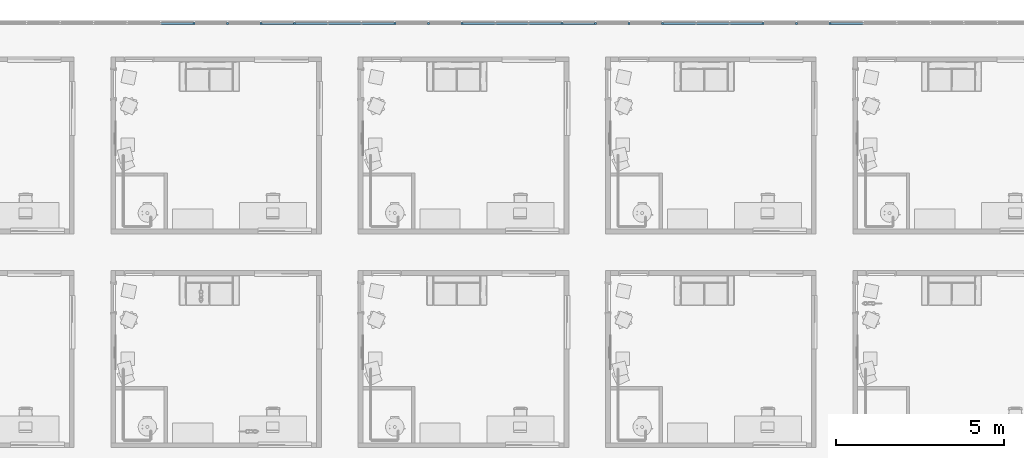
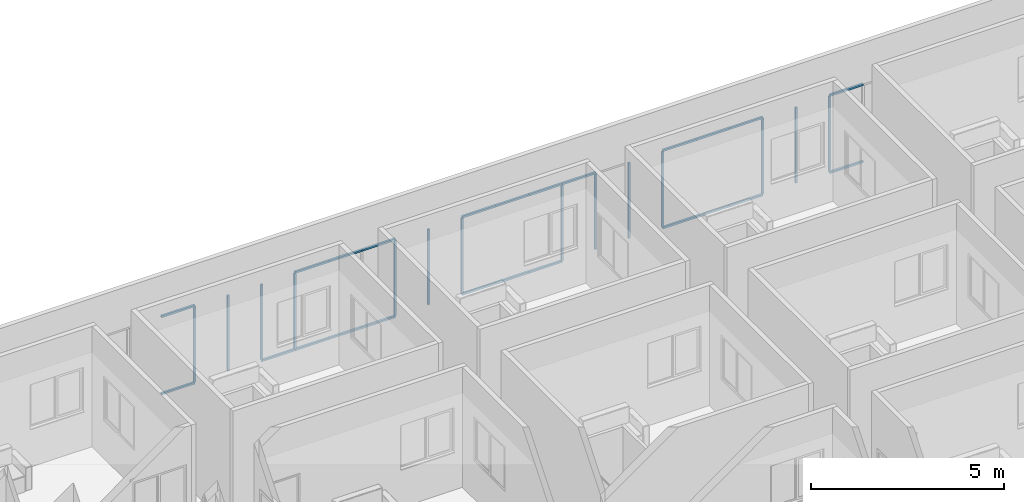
# One storey, part 3 of 71: 38 members, 1 element without a shape of its own.
"""IFC4 building model written with IfcOpenShell, lengths in centimetres."""

from ifc_helpers import new_model, entity, si_unit, converted_unit, derived_unit, direction, frame, origin, place, context, subcontext, project, spatial, indexed_curve, outline, extrude, source, transform, mapped, material, type_object, type_shapes, element, aggregate, save


model = new_model("IFC4")

# Units and contexts
model_context = context("Model", 3, precision=0.001, world=origin(), true_north=direction((6.123233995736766e-17, 1.0)))
body_context = subcontext(model_context, "Body", "Model", "MODEL_VIEW")
ifc_project = project(units=[si_unit("LENGTHUNIT", "METRE", prefix="CENTI"), si_unit("AREAUNIT", "SQUARE_METRE"), si_unit("VOLUMEUNIT", "CUBIC_METRE"), derived_unit("THERMALTRANSMITTANCEUNIT", [(si_unit("MASSUNIT", "GRAM", prefix="KILO"), 1), (si_unit("THERMODYNAMICTEMPERATUREUNIT", "KELVIN"), -1), (si_unit("TIMEUNIT", "SECOND"), -3)]), converted_unit("PLANEANGLEUNIT", "DEGREE", entity("IfcPlaneAngleMeasure", 0.017453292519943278), si_unit("PLANEANGLEUNIT", "RADIAN"), dimensions=[0, 0, 0, 0, 0, 0, 0]), derived_unit("MASSDENSITYUNIT", [(si_unit("MASSUNIT", "GRAM", prefix="KILO"), 1), (si_unit("LENGTHUNIT", "METRE"), -3)]), derived_unit("VAPORPERMEABILITYUNIT", [(si_unit("LENGTHUNIT", "METRE"), -1), (si_unit("TIMEUNIT", "SECOND"), 1)]), derived_unit("USERDEFINED", [(si_unit("MASSUNIT", "GRAM", prefix="KILO"), 1), (si_unit("TIMEUNIT", "SECOND"), -3), (si_unit("LENGTHUNIT", "METRE"), 3), (si_unit("ELECTRICCURRENTUNIT", "AMPERE"), -2)]), derived_unit("SPECIFICHEATCAPACITYUNIT", [(si_unit("THERMODYNAMICTEMPERATUREUNIT", "KELVIN"), -1), (si_unit("LENGTHUNIT", "METRE"), 2), (si_unit("TIMEUNIT", "SECOND"), -2)]), derived_unit("THERMALCONDUCTANCEUNIT", [(si_unit("MASSUNIT", "GRAM", prefix="KILO"), 1), (si_unit("THERMODYNAMICTEMPERATUREUNIT", "KELVIN"), -1), (si_unit("TIMEUNIT", "SECOND"), -3), (si_unit("LENGTHUNIT", "METRE"), 1)]), si_unit("PRESSUREUNIT", "PASCAL"), derived_unit("MODULUSOFELASTICITYUNIT", [(si_unit("MASSUNIT", "GRAM", prefix="KILO"), 1), (si_unit("LENGTHUNIT", "METRE"), -1), (si_unit("TIMEUNIT", "SECOND"), -2)]), derived_unit("THERMALEXPANSIONCOEFFICIENTUNIT", [(si_unit("THERMODYNAMICTEMPERATUREUNIT", "KELVIN"), -1)])], contexts=[model_context])

# Site, building, storey
site_placement = place(None, origin())
site = spatial("IfcSite", under=ifc_project, at=site_placement, Name="Default", CompositionType="ELEMENT")
building_placement = place(site_placement, origin())
building = spatial("IfcBuilding", under=site, at=building_placement, Name="IDS Escape Game Building", CompositionType="ELEMENT")
storey_placement = place(building_placement, frame((0.0, 0.0, 1200.0)))
storey = spatial("IfcBuildingStorey", under=building, at=storey_placement, Name="03_Third Floor", CompositionType="ELEMENT", Elevation=1200.0)

# Curtain wall, members
curtain_wall_type = type_object("IfcCurtainWallType", Name="Curtain Wall:ARC_31.3_CWA_LIB_bandraam vast 100cm - profiel 60x60_gen_BERSnl", PredefinedType="NOTDEFINED")
curtain_wall_placement = place(storey_placement, frame((0.0, 0.0, -1200.0)))
curtain_wall = element("IfcCurtainWall", 1, at=curtain_wall_placement, inside=storey, type_object=curtain_wall_type, Name="Curtain Wall:ARC_31.3_CWA_LIB_bandraam vast 100cm - profiel 60x60_gen_BERSnl", ObjectType="Curtain Wall:ARC_31.3_CWA_LIB_bandraam vast 100cm - profiel 60x60_gen_BERSnl", PredefinedType="NOTDEFINED")
ifc_material = material(Name="<Unnamed>")
member_type_1 = type_object("IfcMemberType", Name="Rectangular Mullion:30-_Stijl_Rechthoek_Midden_B60xD60", PredefinedType="MULLION", material=ifc_material)
shared_shape_1 = source(origin(), body_context, "Body", "SweptSolid", [
    extrude(outline(indexed_curve([(-3.0, -3.0), (3.0, -3.0), (3.0, 3.0), (-3.0, 3.0), (-3.0, -3.0)], self_intersect=False)), frame((-3.0, 3.0, -99.84313725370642), z_axis=(0.0, 0.0, 1.0), x_axis=(-1.0, 0.0, 0.0)), (0.0, 0.0, 1.0), 99.84313725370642),
])
type_shapes(member_type_1, [shared_shape_1])
member_1_placement = place(curtain_wall_placement, frame((1717.176470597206, 3182.0, 1450.0), z_axis=(1.0, 0.0, 0.0), x_axis=(0.0, 0.0, 1.0)))
member_1 = element("IfcMember", 2, at=member_1_placement, type_object=member_type_1, material=ifc_material, Name="Rectangular Mullion:30-_Stijl_Rechthoek_Midden_B60xD60", ObjectType="Rectangular Mullion:30-_Stijl_Rechthoek_Midden_B60xD60", PredefinedType="MULLION", context=body_context, shape_type="MappedRepresentation", body=[
    mapped(shared_shape_1, transform((0.0, 0.0, 0.0), scale=1.0)),
])
member_2_placement = place(curtain_wall_placement, frame((2116.549019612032, 3182.0, 1450.0), z_axis=(1.0, 0.0, 0.0), x_axis=(0.0, 0.0, 1.0)))
member_2 = element("IfcMember", 3, at=member_2_placement, type_object=member_type_1, material=ifc_material, Name="Rectangular Mullion:30-_Stijl_Rechthoek_Midden_B60xD60", ObjectType="Rectangular Mullion:30-_Stijl_Rechthoek_Midden_B60xD60", PredefinedType="MULLION", context=body_context, shape_type="MappedRepresentation", body=[
    mapped(shared_shape_1, transform((0.0, 0.0, 0.0), scale=1.0)),
])
member_3_placement = place(curtain_wall_placement, frame((2216.392156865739, 3182.0, 1450.0), z_axis=(1.0, 0.0, 0.0), x_axis=(0.0, 0.0, 1.0)))
member_3 = element("IfcMember", 4, at=member_3_placement, type_object=member_type_1, material=ifc_material, Name="Rectangular Mullion:30-_Stijl_Rechthoek_Midden_B60xD60", ObjectType="Rectangular Mullion:30-_Stijl_Rechthoek_Midden_B60xD60", PredefinedType="MULLION", context=body_context, shape_type="MappedRepresentation", body=[
    mapped(shared_shape_1, transform((0.0, 0.0, 0.0), scale=1.0)),
])
member_4_placement = place(curtain_wall_placement, frame((2316.235294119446, 3182.0, 1450.0), z_axis=(1.0, 0.0, 0.0), x_axis=(0.0, 0.0, 1.0)))
member_4 = element("IfcMember", 5, at=member_4_placement, type_object=member_type_1, material=ifc_material, Name="Rectangular Mullion:30-_Stijl_Rechthoek_Midden_B60xD60", ObjectType="Rectangular Mullion:30-_Stijl_Rechthoek_Midden_B60xD60", PredefinedType="MULLION", context=body_context, shape_type="MappedRepresentation", body=[
    mapped(shared_shape_1, transform((0.0, 0.0, 0.0), scale=1.0)),
])
member_5_placement = place(curtain_wall_placement, frame((2615.764705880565, 3182.0, 1450.0), z_axis=(1.0, 0.0, 0.0), x_axis=(0.0, 0.0, 1.0)))
member_5 = element("IfcMember", 6, at=member_5_placement, type_object=member_type_1, material=ifc_material, Name="Rectangular Mullion:30-_Stijl_Rechthoek_Midden_B60xD60", ObjectType="Rectangular Mullion:30-_Stijl_Rechthoek_Midden_B60xD60", PredefinedType="MULLION", context=body_context, shape_type="MappedRepresentation", body=[
    mapped(shared_shape_1, transform((0.0, 0.0, 0.0), scale=1.0)),
])
member_6_placement = place(curtain_wall_placement, frame((2715.6078431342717, 3182.0, 1450.0), z_axis=(1.0, 0.0, 0.0), x_axis=(0.0, 0.0, 1.0)))
member_6 = element("IfcMember", 7, at=member_6_placement, type_object=member_type_1, material=ifc_material, Name="Rectangular Mullion:30-_Stijl_Rechthoek_Midden_B60xD60", ObjectType="Rectangular Mullion:30-_Stijl_Rechthoek_Midden_B60xD60", PredefinedType="MULLION", context=body_context, shape_type="MappedRepresentation", body=[
    mapped(shared_shape_1, transform((0.0, 0.0, 0.0), scale=1.0)),
])
member_7_placement = place(curtain_wall_placement, frame((2815.4509803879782, 3182.0, 1450.0), z_axis=(1.0, 0.0, 0.0), x_axis=(0.0, 0.0, 1.0)))
member_7 = element("IfcMember", 8, at=member_7_placement, type_object=member_type_1, material=ifc_material, Name="Rectangular Mullion:30-_Stijl_Rechthoek_Midden_B60xD60", ObjectType="Rectangular Mullion:30-_Stijl_Rechthoek_Midden_B60xD60", PredefinedType="MULLION", context=body_context, shape_type="MappedRepresentation", body=[
    mapped(shared_shape_1, transform((0.0, 0.0, 0.0), scale=1.0)),
])
member_8_placement = place(curtain_wall_placement, frame((2915.294117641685, 3182.0, 1450.0), z_axis=(1.0, 0.0, 0.0), x_axis=(0.0, 0.0, 1.0)))
member_8 = element("IfcMember", 9, at=member_8_placement, type_object=member_type_1, material=ifc_material, Name="Rectangular Mullion:30-_Stijl_Rechthoek_Midden_B60xD60", ObjectType="Rectangular Mullion:30-_Stijl_Rechthoek_Midden_B60xD60", PredefinedType="MULLION", context=body_context, shape_type="MappedRepresentation", body=[
    mapped(shared_shape_1, transform((0.0, 0.0, 0.0), scale=1.0)),
])
member_9_placement = place(curtain_wall_placement, frame((3214.8235294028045, 3182.0, 1450.0), z_axis=(1.0, 0.0, 0.0), x_axis=(0.0, 0.0, 1.0)))
member_9 = element("IfcMember", 10, at=member_9_placement, type_object=member_type_1, material=ifc_material, Name="Rectangular Mullion:30-_Stijl_Rechthoek_Midden_B60xD60", ObjectType="Rectangular Mullion:30-_Stijl_Rechthoek_Midden_B60xD60", PredefinedType="MULLION", context=body_context, shape_type="MappedRepresentation", body=[
    mapped(shared_shape_1, transform((0.0, 0.0, 0.0), scale=1.0)),
])
member_10_placement = place(curtain_wall_placement, frame((3314.666666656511, 3182.0, 1450.0), z_axis=(1.0, 0.0, 0.0), x_axis=(0.0, 0.0, 1.0)))
member_10 = element("IfcMember", 11, at=member_10_placement, type_object=member_type_1, material=ifc_material, Name="Rectangular Mullion:30-_Stijl_Rechthoek_Midden_B60xD60", ObjectType="Rectangular Mullion:30-_Stijl_Rechthoek_Midden_B60xD60", PredefinedType="MULLION", context=body_context, shape_type="MappedRepresentation", body=[
    mapped(shared_shape_1, transform((0.0, 0.0, 0.0), scale=1.0)),
])
member_11_placement = place(curtain_wall_placement, frame((3414.509803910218, 3182.0, 1450.0), z_axis=(1.0, 0.0, 0.0), x_axis=(0.0, 0.0, 1.0)))
member_11 = element("IfcMember", 12, at=member_11_placement, type_object=member_type_1, material=ifc_material, Name="Rectangular Mullion:30-_Stijl_Rechthoek_Midden_B60xD60", ObjectType="Rectangular Mullion:30-_Stijl_Rechthoek_Midden_B60xD60", PredefinedType="MULLION", context=body_context, shape_type="MappedRepresentation", body=[
    mapped(shared_shape_1, transform((0.0, 0.0, 0.0), scale=1.0)),
])
member_12_placement = place(curtain_wall_placement, frame((3714.0392156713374, 3182.0, 1450.0), z_axis=(1.0, 0.0, 0.0), x_axis=(0.0, 0.0, 1.0)))
member_12 = element("IfcMember", 13, at=member_12_placement, type_object=member_type_1, material=ifc_material, Name="Rectangular Mullion:30-_Stijl_Rechthoek_Midden_B60xD60", ObjectType="Rectangular Mullion:30-_Stijl_Rechthoek_Midden_B60xD60", PredefinedType="MULLION", context=body_context, shape_type="MappedRepresentation", body=[
    mapped(shared_shape_1, transform((0.0, 0.0, 0.0), scale=1.0)),
])
member_type_2 = type_object("IfcMemberType", Name="Rectangular Mullion:30-_Stijl_Rechthoek_Midden_B60xD60", PredefinedType="MULLION", material=ifc_material)
shared_shape_2 = source(origin(), body_context, "Body", "SweptSolid", [
    extrude(outline(indexed_curve([(-3.0, -3.0), (3.0, -3.0), (3.0, 3.0), (-3.0, 3.0), (-3.0, -3.0)], self_intersect=False)), frame((-3.0, 3.0, -99.84313725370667), z_axis=(0.0, 0.0, 1.0), x_axis=(-1.0, 0.0, 0.0)), (0.0, 0.0, 1.0), 99.84313725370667),
])
type_shapes(member_type_2, [shared_shape_2])
member_13_placement = place(curtain_wall_placement, frame((1617.3333333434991, 3182.0, 1200.0), z_axis=(-1.0, 0.0, 0.0), x_axis=(0.0, 0.0, -1.0)))
member_13 = element("IfcMember", 14, at=member_13_placement, type_object=member_type_2, material=ifc_material, Name="Rectangular Mullion:30-_Stijl_Rechthoek_Midden_B60xD60", ObjectType="Rectangular Mullion:30-_Stijl_Rechthoek_Midden_B60xD60", PredefinedType="MULLION", context=body_context, shape_type="MappedRepresentation", body=[
    mapped(shared_shape_2, transform((0.0, 0.0, 0.0), scale=1.0)),
])
member_14_placement = place(curtain_wall_placement, frame((1916.8627451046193, 3182.0, 1200.0), z_axis=(-1.0, 0.0, 0.0), x_axis=(0.0, 0.0, -1.0)))
member_14 = element("IfcMember", 15, at=member_14_placement, type_object=member_type_2, material=ifc_material, Name="Rectangular Mullion:30-_Stijl_Rechthoek_Midden_B60xD60", ObjectType="Rectangular Mullion:30-_Stijl_Rechthoek_Midden_B60xD60", PredefinedType="MULLION", context=body_context, shape_type="MappedRepresentation", body=[
    mapped(shared_shape_2, transform((0.0, 0.0, 0.0), scale=1.0)),
])
member_15_placement = place(curtain_wall_placement, frame((2016.7058823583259, 3182.0, 1200.0), z_axis=(-1.0, 0.0, 0.0), x_axis=(0.0, 0.0, -1.0)))
member_15 = element("IfcMember", 16, at=member_15_placement, type_object=member_type_2, material=ifc_material, Name="Rectangular Mullion:30-_Stijl_Rechthoek_Midden_B60xD60", ObjectType="Rectangular Mullion:30-_Stijl_Rechthoek_Midden_B60xD60", PredefinedType="MULLION", context=body_context, shape_type="MappedRepresentation", body=[
    mapped(shared_shape_2, transform((0.0, 0.0, 0.0), scale=1.0)),
])
member_16_placement = place(curtain_wall_placement, frame((2116.5490196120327, 3182.0, 1200.0), z_axis=(-1.0, 0.0, 0.0), x_axis=(0.0, 0.0, -1.0)))
member_16 = element("IfcMember", 17, at=member_16_placement, type_object=member_type_2, material=ifc_material, Name="Rectangular Mullion:30-_Stijl_Rechthoek_Midden_B60xD60", ObjectType="Rectangular Mullion:30-_Stijl_Rechthoek_Midden_B60xD60", PredefinedType="MULLION", context=body_context, shape_type="MappedRepresentation", body=[
    mapped(shared_shape_2, transform((0.0, 0.0, 0.0), scale=1.0)),
])
member_17_placement = place(curtain_wall_placement, frame((2216.3921568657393, 3182.0, 1200.0), z_axis=(-1.0, 0.0, 0.0), x_axis=(0.0, 0.0, -1.0)))
member_17 = element("IfcMember", 18, at=member_17_placement, type_object=member_type_2, material=ifc_material, Name="Rectangular Mullion:30-_Stijl_Rechthoek_Midden_B60xD60", ObjectType="Rectangular Mullion:30-_Stijl_Rechthoek_Midden_B60xD60", PredefinedType="MULLION", context=body_context, shape_type="MappedRepresentation", body=[
    mapped(shared_shape_2, transform((0.0, 0.0, 0.0), scale=1.0)),
])
member_18_placement = place(curtain_wall_placement, frame((2515.9215686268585, 3182.0, 1200.0), z_axis=(-1.0, 0.0, 0.0), x_axis=(0.0, 0.0, -1.0)))
member_18 = element("IfcMember", 19, at=member_18_placement, type_object=member_type_2, material=ifc_material, Name="Rectangular Mullion:30-_Stijl_Rechthoek_Midden_B60xD60", ObjectType="Rectangular Mullion:30-_Stijl_Rechthoek_Midden_B60xD60", PredefinedType="MULLION", context=body_context, shape_type="MappedRepresentation", body=[
    mapped(shared_shape_2, transform((0.0, 0.0, 0.0), scale=1.0)),
])
member_19_placement = place(curtain_wall_placement, frame((2615.764705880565, 3182.0, 1200.0), z_axis=(-1.0, 0.0, 0.0), x_axis=(0.0, 0.0, -1.0)))
member_19 = element("IfcMember", 20, at=member_19_placement, type_object=member_type_2, material=ifc_material, Name="Rectangular Mullion:30-_Stijl_Rechthoek_Midden_B60xD60", ObjectType="Rectangular Mullion:30-_Stijl_Rechthoek_Midden_B60xD60", PredefinedType="MULLION", context=body_context, shape_type="MappedRepresentation", body=[
    mapped(shared_shape_2, transform((0.0, 0.0, 0.0), scale=1.0)),
])
member_20_placement = place(curtain_wall_placement, frame((2715.6078431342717, 3182.0, 1200.0), z_axis=(-1.0, 0.0, 0.0), x_axis=(0.0, 0.0, -1.0)))
member_20 = element("IfcMember", 21, at=member_20_placement, type_object=member_type_2, material=ifc_material, Name="Rectangular Mullion:30-_Stijl_Rechthoek_Midden_B60xD60", ObjectType="Rectangular Mullion:30-_Stijl_Rechthoek_Midden_B60xD60", PredefinedType="MULLION", context=body_context, shape_type="MappedRepresentation", body=[
    mapped(shared_shape_2, transform((0.0, 0.0, 0.0), scale=1.0)),
])
member_21_placement = place(curtain_wall_placement, frame((3114.980392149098, 3182.0, 1200.0), z_axis=(-1.0, 0.0, 0.0), x_axis=(0.0, 0.0, -1.0)))
member_21 = element("IfcMember", 22, at=member_21_placement, type_object=member_type_2, material=ifc_material, Name="Rectangular Mullion:30-_Stijl_Rechthoek_Midden_B60xD60", ObjectType="Rectangular Mullion:30-_Stijl_Rechthoek_Midden_B60xD60", PredefinedType="MULLION", context=body_context, shape_type="MappedRepresentation", body=[
    mapped(shared_shape_2, transform((0.0, 0.0, 0.0), scale=1.0)),
])
member_22_placement = place(curtain_wall_placement, frame((3214.8235294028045, 3182.0, 1200.0), z_axis=(-1.0, 0.0, 0.0), x_axis=(0.0, 0.0, -1.0)))
member_22 = element("IfcMember", 23, at=member_22_placement, type_object=member_type_2, material=ifc_material, Name="Rectangular Mullion:30-_Stijl_Rechthoek_Midden_B60xD60", ObjectType="Rectangular Mullion:30-_Stijl_Rechthoek_Midden_B60xD60", PredefinedType="MULLION", context=body_context, shape_type="MappedRepresentation", body=[
    mapped(shared_shape_2, transform((0.0, 0.0, 0.0), scale=1.0)),
])
member_23_placement = place(curtain_wall_placement, frame((3314.666666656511, 3182.0, 1200.0), z_axis=(-1.0, 0.0, 0.0), x_axis=(0.0, 0.0, -1.0)))
member_23 = element("IfcMember", 24, at=member_23_placement, type_object=member_type_2, material=ifc_material, Name="Rectangular Mullion:30-_Stijl_Rechthoek_Midden_B60xD60", ObjectType="Rectangular Mullion:30-_Stijl_Rechthoek_Midden_B60xD60", PredefinedType="MULLION", context=body_context, shape_type="MappedRepresentation", body=[
    mapped(shared_shape_2, transform((0.0, 0.0, 0.0), scale=1.0)),
])
member_24_placement = place(curtain_wall_placement, frame((3614.196078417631, 3182.0, 1200.0), z_axis=(-1.0, 0.0, 0.0), x_axis=(0.0, 0.0, -1.0)))
member_24 = element("IfcMember", 25, at=member_24_placement, type_object=member_type_2, material=ifc_material, Name="Rectangular Mullion:30-_Stijl_Rechthoek_Midden_B60xD60", ObjectType="Rectangular Mullion:30-_Stijl_Rechthoek_Midden_B60xD60", PredefinedType="MULLION", context=body_context, shape_type="MappedRepresentation", body=[
    mapped(shared_shape_2, transform((0.0, 0.0, 0.0), scale=1.0)),
])
member_type_3 = type_object("IfcMemberType", Name="Rectangular Mullion:30-_Stijl_Rechthoek_Midden_B60xD60", PredefinedType="MULLION", material=ifc_material)
shared_shape_3 = source(origin(), body_context, "Body", "SweptSolid", [
    extrude(outline(indexed_curve([(-3.0, -3.0), (3.0, -3.0), (3.0, 3.0), (-3.0, 3.0), (-3.0, -3.0)], self_intersect=False)), frame((0.0, 3.0, -238.0), z_axis=(0.0, 0.0, 1.0), x_axis=(-1.0, 0.0, 0.0)), (0.0, 0.0, 1.0), 238.00000000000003),
])
type_shapes(member_type_3, [shared_shape_3])
member_25_placement = place(curtain_wall_placement, frame((1717.176470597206, 3182.0, 1206.0), z_axis=(0.0, 0.0, -1.0), x_axis=(1.0, 0.0, 0.0)))
member_25 = element("IfcMember", 26, at=member_25_placement, type_object=member_type_3, material=ifc_material, Name="Rectangular Mullion:30-_Stijl_Rechthoek_Midden_B60xD60", ObjectType="Rectangular Mullion:30-_Stijl_Rechthoek_Midden_B60xD60", PredefinedType="MULLION", context=body_context, shape_type="MappedRepresentation", body=[
    mapped(shared_shape_3, transform((0.0, 0.0, 0.0), scale=1.0)),
])
member_26_placement = place(curtain_wall_placement, frame((1817.0196078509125, 3182.0, 1206.0), z_axis=(0.0, 0.0, -1.0), x_axis=(1.0, 0.0, 0.0)))
member_26 = element("IfcMember", 27, at=member_26_placement, type_object=member_type_3, material=ifc_material, Name="Rectangular Mullion:30-_Stijl_Rechthoek_Midden_B60xD60", ObjectType="Rectangular Mullion:30-_Stijl_Rechthoek_Midden_B60xD60", PredefinedType="MULLION", context=body_context, shape_type="MappedRepresentation", body=[
    mapped(shared_shape_3, transform((0.0, 0.0, 0.0), scale=1.0)),
])
member_27_placement = place(curtain_wall_placement, frame((1916.8627451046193, 3182.0, 1206.0), z_axis=(0.0, 0.0, -1.0), x_axis=(1.0, 0.0, 0.0)))
member_27 = element("IfcMember", 28, at=member_27_placement, type_object=member_type_3, material=ifc_material, Name="Rectangular Mullion:30-_Stijl_Rechthoek_Midden_B60xD60", ObjectType="Rectangular Mullion:30-_Stijl_Rechthoek_Midden_B60xD60", PredefinedType="MULLION", context=body_context, shape_type="MappedRepresentation", body=[
    mapped(shared_shape_3, transform((0.0, 0.0, 0.0), scale=1.0)),
])
member_28_placement = place(curtain_wall_placement, frame((2016.7058823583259, 3182.0, 1206.0), z_axis=(0.0, 0.0, -1.0), x_axis=(1.0, 0.0, 0.0)))
member_28 = element("IfcMember", 29, at=member_28_placement, type_object=member_type_3, material=ifc_material, Name="Rectangular Mullion:30-_Stijl_Rechthoek_Midden_B60xD60", ObjectType="Rectangular Mullion:30-_Stijl_Rechthoek_Midden_B60xD60", PredefinedType="MULLION", context=body_context, shape_type="MappedRepresentation", body=[
    mapped(shared_shape_3, transform((0.0, 0.0, 0.0), scale=1.0)),
])
member_29_placement = place(curtain_wall_placement, frame((2316.235294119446, 3182.0, 1206.0), z_axis=(0.0, 0.0, -1.0), x_axis=(1.0, 0.0, 0.0)))
member_29 = element("IfcMember", 30, at=member_29_placement, type_object=member_type_3, material=ifc_material, Name="Rectangular Mullion:30-_Stijl_Rechthoek_Midden_B60xD60", ObjectType="Rectangular Mullion:30-_Stijl_Rechthoek_Midden_B60xD60", PredefinedType="MULLION", context=body_context, shape_type="MappedRepresentation", body=[
    mapped(shared_shape_3, transform((0.0, 0.0, 0.0), scale=1.0)),
])
member_30_placement = place(curtain_wall_placement, frame((2416.0784313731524, 3182.0, 1206.0), z_axis=(0.0, 0.0, -1.0), x_axis=(1.0, 0.0, 0.0)))
member_30 = element("IfcMember", 31, at=member_30_placement, type_object=member_type_3, material=ifc_material, Name="Rectangular Mullion:30-_Stijl_Rechthoek_Midden_B60xD60", ObjectType="Rectangular Mullion:30-_Stijl_Rechthoek_Midden_B60xD60", PredefinedType="MULLION", context=body_context, shape_type="MappedRepresentation", body=[
    mapped(shared_shape_3, transform((0.0, 0.0, 0.0), scale=1.0)),
])
member_31_placement = place(curtain_wall_placement, frame((2515.9215686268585, 3182.0, 1206.0), z_axis=(0.0, 0.0, -1.0), x_axis=(1.0, 0.0, 0.0)))
member_31 = element("IfcMember", 32, at=member_31_placement, type_object=member_type_3, material=ifc_material, Name="Rectangular Mullion:30-_Stijl_Rechthoek_Midden_B60xD60", ObjectType="Rectangular Mullion:30-_Stijl_Rechthoek_Midden_B60xD60", PredefinedType="MULLION", context=body_context, shape_type="MappedRepresentation", body=[
    mapped(shared_shape_3, transform((0.0, 0.0, 0.0), scale=1.0)),
])
member_32_placement = place(curtain_wall_placement, frame((2815.4509803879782, 3182.0, 1206.0), z_axis=(0.0, 0.0, -1.0), x_axis=(1.0, 0.0, 0.0)))
member_32 = element("IfcMember", 33, at=member_32_placement, type_object=member_type_3, material=ifc_material, Name="Rectangular Mullion:30-_Stijl_Rechthoek_Midden_B60xD60", ObjectType="Rectangular Mullion:30-_Stijl_Rechthoek_Midden_B60xD60", PredefinedType="MULLION", context=body_context, shape_type="MappedRepresentation", body=[
    mapped(shared_shape_3, transform((0.0, 0.0, 0.0), scale=1.0)),
])
member_33_placement = place(curtain_wall_placement, frame((2915.294117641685, 3182.0, 1206.0), z_axis=(0.0, 0.0, -1.0), x_axis=(1.0, 0.0, 0.0)))
member_33 = element("IfcMember", 34, at=member_33_placement, type_object=member_type_3, material=ifc_material, Name="Rectangular Mullion:30-_Stijl_Rechthoek_Midden_B60xD60", ObjectType="Rectangular Mullion:30-_Stijl_Rechthoek_Midden_B60xD60", PredefinedType="MULLION", context=body_context, shape_type="MappedRepresentation", body=[
    mapped(shared_shape_3, transform((0.0, 0.0, 0.0), scale=1.0)),
])
member_34_placement = place(curtain_wall_placement, frame((3015.1372548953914, 3182.0, 1206.0), z_axis=(0.0, 0.0, -1.0), x_axis=(1.0, 0.0, 0.0)))
member_34 = element("IfcMember", 35, at=member_34_placement, type_object=member_type_3, material=ifc_material, Name="Rectangular Mullion:30-_Stijl_Rechthoek_Midden_B60xD60", ObjectType="Rectangular Mullion:30-_Stijl_Rechthoek_Midden_B60xD60", PredefinedType="MULLION", context=body_context, shape_type="MappedRepresentation", body=[
    mapped(shared_shape_3, transform((0.0, 0.0, 0.0), scale=1.0)),
])
member_35_placement = place(curtain_wall_placement, frame((3114.980392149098, 3182.0, 1206.0), z_axis=(0.0, 0.0, -1.0), x_axis=(1.0, 0.0, 0.0)))
member_35 = element("IfcMember", 36, at=member_35_placement, type_object=member_type_3, material=ifc_material, Name="Rectangular Mullion:30-_Stijl_Rechthoek_Midden_B60xD60", ObjectType="Rectangular Mullion:30-_Stijl_Rechthoek_Midden_B60xD60", PredefinedType="MULLION", context=body_context, shape_type="MappedRepresentation", body=[
    mapped(shared_shape_3, transform((0.0, 0.0, 0.0), scale=1.0)),
])
member_36_placement = place(curtain_wall_placement, frame((3414.5098039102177, 3182.0, 1206.0), z_axis=(0.0, 0.0, -1.0), x_axis=(1.0, 0.0, 0.0)))
member_36 = element("IfcMember", 37, at=member_36_placement, type_object=member_type_3, material=ifc_material, Name="Rectangular Mullion:30-_Stijl_Rechthoek_Midden_B60xD60", ObjectType="Rectangular Mullion:30-_Stijl_Rechthoek_Midden_B60xD60", PredefinedType="MULLION", context=body_context, shape_type="MappedRepresentation", body=[
    mapped(shared_shape_3, transform((0.0, 0.0, 0.0), scale=1.0)),
])
member_37_placement = place(curtain_wall_placement, frame((3514.3529411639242, 3182.0, 1206.0), z_axis=(0.0, 0.0, -1.0), x_axis=(1.0, 0.0, 0.0)))
member_37 = element("IfcMember", 38, at=member_37_placement, type_object=member_type_3, material=ifc_material, Name="Rectangular Mullion:30-_Stijl_Rechthoek_Midden_B60xD60", ObjectType="Rectangular Mullion:30-_Stijl_Rechthoek_Midden_B60xD60", PredefinedType="MULLION", context=body_context, shape_type="MappedRepresentation", body=[
    mapped(shared_shape_3, transform((0.0, 0.0, 0.0), scale=1.0)),
])
member_38_placement = place(curtain_wall_placement, frame((3614.196078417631, 3182.0, 1206.0), z_axis=(0.0, 0.0, -1.0), x_axis=(1.0, 0.0, 0.0)))
member_38 = element("IfcMember", 39, at=member_38_placement, type_object=member_type_3, material=ifc_material, Name="Rectangular Mullion:30-_Stijl_Rechthoek_Midden_B60xD60", ObjectType="Rectangular Mullion:30-_Stijl_Rechthoek_Midden_B60xD60", PredefinedType="MULLION", context=body_context, shape_type="MappedRepresentation", body=[
    mapped(shared_shape_3, transform((0.0, 0.0, 0.0), scale=1.0)),
])
aggregate(curtain_wall, [member_1, member_2, member_3, member_4, member_5, member_6, member_7, member_8, member_9, member_10, member_11, member_12, member_13, member_14, member_15, member_16, member_17, member_18, member_19, member_20, member_21, member_22, member_23, member_24, member_25, member_26, member_27, member_28, member_29, member_30, member_31, member_32, member_33, member_34, member_35, member_36, member_37, member_38])

save(model, "model.ifc")
